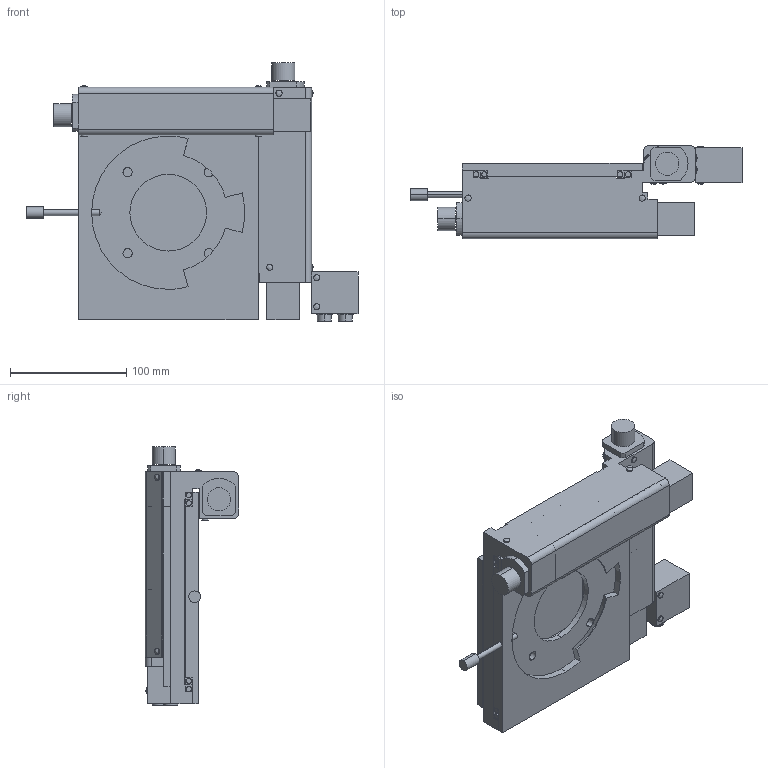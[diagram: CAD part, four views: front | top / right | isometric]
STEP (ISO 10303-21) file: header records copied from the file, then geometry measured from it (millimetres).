
FILE_DESCRIPTION (( 'STEP AP203' ), '1' );
FILE_NAME ('MSS-50C-OB.STEP', '2013-03-15T08:22:17', ( '' ), ( '' ), 'SwSTEP 2.0', 'SolidWorks 2011', '' );
FILE_SCHEMA (( 'CONFIG_CONTROL_DESIGN' ));
Length unit declared in the file: millimetre
Products named in the file (6): MSS-50C-OB-4; MSS-50C-OB-3; MSS-50C-OB-2; MSS-50C-OB-1; MSS-50C-OB; MSS-50C-OB-5
Assembly tree (5 placements, depth 2):
  MSS-50C-OB
    MSS-50C-OB-5
    MSS-50C-OB-2
    MSS-50C-OB-4
    MSS-50C-OB-1
    MSS-50C-OB-3
Bounding box: 286 x 80.5 x 222.3 mm (x, y, z)
Volume: 1008051 mm3; surface area: 281721.5 mm2
Topology: 5 solids, 5 shells, 394 faces, 988 edges, 652 vertices
Faces by surface type: plane 228, cylinder 146, bspline 16, cone 4
Entity records: 15651 total; most frequent: CARTESIAN_POINT 5403, DIRECTION 1991, ORIENTED_EDGE 1972, EDGE_CURVE 986, VECTOR 675, LINE 675, AXIS2_PLACEMENT_3D 658, VERTEX_POINT 652
